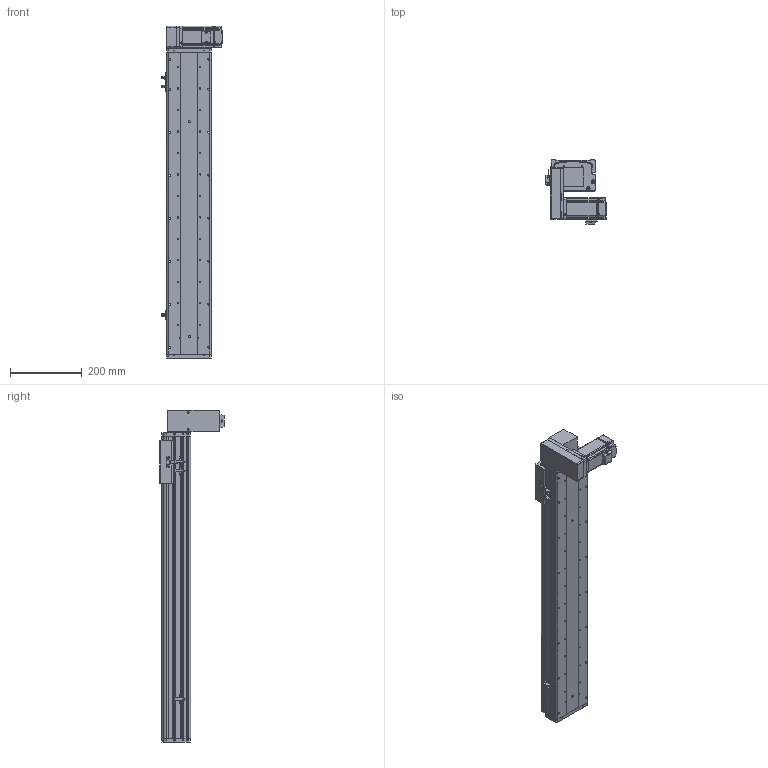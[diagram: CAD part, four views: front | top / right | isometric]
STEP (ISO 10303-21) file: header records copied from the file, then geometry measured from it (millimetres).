
FILE_DESCRIPTION (( 'STEP AP214' ), '1' );
FILE_NAME ('KSD125B-S650-MRD-CM.STEP', '2017-10-21T06:08:29', ( '微软用户' ), ( '微软中国' ), 'SwSTEP 2.0', 'SolidWorks 2014', '' );
FILE_SCHEMA (( 'AUTOMOTIVE_DESIGN' ));
Length unit declared in the file: millimetre
Products named in the file (17): 前端板-125宽模组同步带; 125模组同步带-尾端板1; KSD125模组同步带-滑动座1; KSD125B-S650-MRD-CM; 悵誘欶奻狟殏; HTPA30S3M150_A_H6_a佪裝蚚; HTPA30S3M150_A_H6_a萇儂蚚; 100宽马达安装板连板上下折丝杆同步带; KSD125模组650行程同步带-防尘盖; 125模组650行程同步带-底板; MHMD042G1CA_2_03; KSD125模组同步带-防撞垫2; 覜茼え68遵圉猾敕; U倰嫖萇假蚾璃; U倰嫖萇EEㄜSX672; KSD125模组同步带-防撞垫1; 100宽马达安装板同步带右
Assembly tree (20 placements, depth 2):
  KSD125B-S650-MRD-CM
    KSD125模组同步带-滑动座1
    125模组同步带-尾端板1
    前端板-125宽模组同步带
    100宽马达安装板同步带右
    KSD125模组同步带-防撞垫1
    U倰嫖萇EEㄜSX672  x3
    U倰嫖萇假蚾璃  x3
    覜茼え68遵圉猾敕
    KSD125模组同步带-防撞垫2
    MHMD042G1CA_2_03
    125模组650行程同步带-底板
    KSD125模组650行程同步带-防尘盖
    100宽马达安装板连板上下折丝杆同步带
    HTPA30S3M150_A_H6_a萇儂蚚
    HTPA30S3M150_A_H6_a佪裝蚚
    悵誘欶奻狟殏
Bounding box: 168.7 x 179.5 x 927 mm (x, y, z)
Volume: 2990022.9 mm3; surface area: 1027051.5 mm2
Topology: 19 solids, 22 shells, 2267 faces, 6565 edges, 4338 vertices
Faces by surface type: cylinder 1416, plane 724, cone 105, bspline 22
Entity records: 80459 total; most frequent: CARTESIAN_POINT 15915, DIRECTION 12514, ORIENTED_EDGE 11650, EDGE_CURVE 5903, AXIS2_PLACEMENT_3D 4833, VERTEX_POINT 3930, LINE 2848, VECTOR 2848
